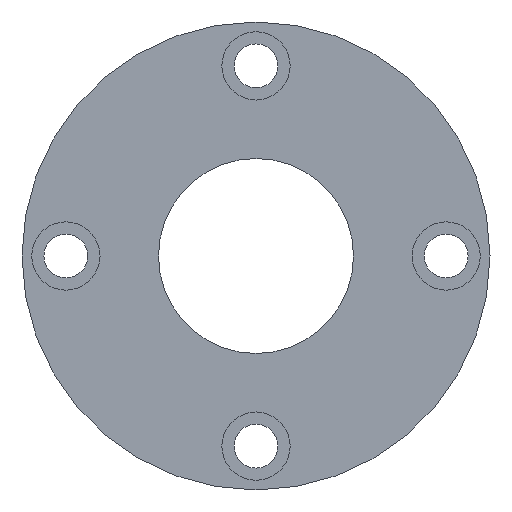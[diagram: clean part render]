
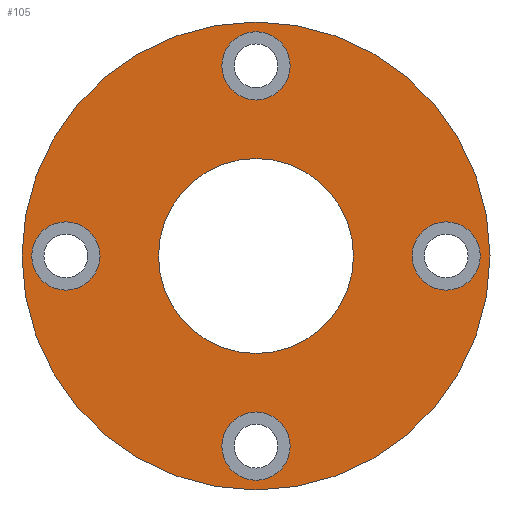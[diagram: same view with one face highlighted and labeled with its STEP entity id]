
A CAD part, front view. The second image highlights one B-rep face of the part: STEP entity #105.
In plain terms, the highlighted planar face has unit normal (0, -1, 0).
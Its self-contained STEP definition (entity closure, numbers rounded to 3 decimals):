
#2 = DIRECTION ( 'NONE',  ( 0., 0., -1. ) ) ;
#3 = FACE_BOUND ( 'NONE', #321, .T. ) ;
#7 = DIRECTION ( 'NONE',  ( 0., 0., -1. ) ) ;
#13 = CIRCLE ( 'NONE', #123, 20. ) ;
#22 = CARTESIAN_POINT ( 'NONE',  ( 1., -40., -7. ) ) ;
#23 = EDGE_CURVE ( 'NONE', #553, #687, #266, .T. ) ;
#28 = VERTEX_POINT ( 'NONE', #22 ) ;
#51 = CARTESIAN_POINT ( 'NONE',  ( 40., -40., -46. ) ) ;
#53 = VERTEX_POINT ( 'NONE', #626 ) ;
#74 = EDGE_LOOP ( 'NONE', ( #747, #332 ) ) ;
#80 = CARTESIAN_POINT ( 'NONE',  ( 40., -40., 0. ) ) ;
#81 = CIRCLE ( 'NONE', #895, 7. ) ;
#86 = DIRECTION ( 'NONE',  ( 0., 0., 1. ) ) ;
#87 = FACE_BOUND ( 'NONE', #473, .T. ) ;
#91 = AXIS2_PLACEMENT_3D ( 'NONE', #289, #712, #564 ) ;
#105 = ADVANCED_FACE ( 'NONE', ( #87, #566, #844, #3, #758, #478 ), #129, .T. ) ;
#111 = ORIENTED_EDGE ( 'NONE', *, *, #206, .T. ) ;
#114 = DIRECTION ( 'NONE',  ( 0., 0., -1. ) ) ;
#123 = AXIS2_PLACEMENT_3D ( 'NONE', #320, #185, #590 ) ;
#124 = ORIENTED_EDGE ( 'NONE', *, *, #812, .T. ) ;
#128 = CARTESIAN_POINT ( 'NONE',  ( 40., -40., 46. ) ) ;
#129 = PLANE ( 'NONE',  #135 ) ;
#135 = AXIS2_PLACEMENT_3D ( 'NONE', #562, #773, #149 ) ;
#140 = EDGE_CURVE ( 'NONE', #806, #575, #81, .T. ) ;
#143 = ORIENTED_EDGE ( 'NONE', *, *, #774, .F. ) ;
#149 = DIRECTION ( 'NONE',  ( 0., 0., 1. ) ) ;
#164 = DIRECTION ( 'NONE',  ( 0., 1., 0. ) ) ;
#170 = CARTESIAN_POINT ( 'NONE',  ( 40., -40., -20. ) ) ;
#185 = DIRECTION ( 'NONE',  ( 0., 1., 0. ) ) ;
#205 = EDGE_LOOP ( 'NONE', ( #318, #124 ) ) ;
#206 = EDGE_CURVE ( 'NONE', #870, #53, #819, .T. ) ;
#218 = CARTESIAN_POINT ( 'NONE',  ( 40., -40., 32. ) ) ;
#223 = AXIS2_PLACEMENT_3D ( 'NONE', #811, #334, #114 ) ;
#228 = VERTEX_POINT ( 'NONE', #330 ) ;
#246 = DIRECTION ( 'NONE',  ( 0., 0., -1. ) ) ;
#266 = CIRCLE ( 'NONE', #393, 20. ) ;
#274 = EDGE_CURVE ( 'NONE', #365, #479, #835, .T. ) ;
#278 = CARTESIAN_POINT ( 'NONE',  ( 40., -40., 20. ) ) ;
#280 = EDGE_CURVE ( 'NONE', #53, #870, #820, .T. ) ;
#282 = CIRCLE ( 'NONE', #526, 48. ) ;
#289 = CARTESIAN_POINT ( 'NONE',  ( 1., -40., 0. ) ) ;
#310 = ORIENTED_EDGE ( 'NONE', *, *, #392, .T. ) ;
#318 = ORIENTED_EDGE ( 'NONE', *, *, #23, .T. ) ;
#319 = AXIS2_PLACEMENT_3D ( 'NONE', #780, #859, #863 ) ;
#320 = CARTESIAN_POINT ( 'NONE',  ( 40., -40., 0. ) ) ;
#321 = EDGE_LOOP ( 'NONE', ( #434, #439 ) ) ;
#330 = CARTESIAN_POINT ( 'NONE',  ( 1., -40., 7. ) ) ;
#332 = ORIENTED_EDGE ( 'NONE', *, *, #531, .T. ) ;
#334 = DIRECTION ( 'NONE',  ( 0., 1., 0. ) ) ;
#336 = ORIENTED_EDGE ( 'NONE', *, *, #274, .F. ) ;
#342 = DIRECTION ( 'NONE',  ( 0., 0., -1. ) ) ;
#344 = CARTESIAN_POINT ( 'NONE',  ( 79., -40., 7. ) ) ;
#365 = VERTEX_POINT ( 'NONE', #757 ) ;
#379 = VERTEX_POINT ( 'NONE', #128 ) ;
#388 = VERTEX_POINT ( 'NONE', #218 ) ;
#392 = EDGE_CURVE ( 'NONE', #575, #806, #568, .T. ) ;
#393 = AXIS2_PLACEMENT_3D ( 'NONE', #80, #622, #7 ) ;
#397 = CARTESIAN_POINT ( 'NONE',  ( 40., -40., 39. ) ) ;
#398 = DIRECTION ( 'NONE',  ( 0., 0., -1. ) ) ;
#411 = CIRCLE ( 'NONE', #743, 7. ) ;
#419 = DIRECTION ( 'NONE',  ( 0., 1., 0. ) ) ;
#434 = ORIENTED_EDGE ( 'NONE', *, *, #594, .T. ) ;
#436 = EDGE_CURVE ( 'NONE', #228, #28, #411, .T. ) ;
#439 = ORIENTED_EDGE ( 'NONE', *, *, #436, .T. ) ;
#459 = DIRECTION ( 'NONE',  ( 0., 0., -1. ) ) ;
#473 = EDGE_LOOP ( 'NONE', ( #484, #111 ) ) ;
#478 = FACE_OUTER_BOUND ( 'NONE', #511, .T. ) ;
#479 = VERTEX_POINT ( 'NONE', #752 ) ;
#484 = ORIENTED_EDGE ( 'NONE', *, *, #280, .T. ) ;
#495 = AXIS2_PLACEMENT_3D ( 'NONE', #784, #164, #537 ) ;
#505 = EDGE_LOOP ( 'NONE', ( #785, #310 ) ) ;
#510 = AXIS2_PLACEMENT_3D ( 'NONE', #831, #688, #2 ) ;
#511 = EDGE_LOOP ( 'NONE', ( #143, #336 ) ) ;
#526 = AXIS2_PLACEMENT_3D ( 'NONE', #735, #674, #459 ) ;
#531 = EDGE_CURVE ( 'NONE', #379, #388, #652, .T. ) ;
#537 = DIRECTION ( 'NONE',  ( 0., 0., -1. ) ) ;
#553 = VERTEX_POINT ( 'NONE', #170 ) ;
#562 = CARTESIAN_POINT ( 'NONE',  ( -8., -40., 0. ) ) ;
#564 = DIRECTION ( 'NONE',  ( 0., 0., 1. ) ) ;
#566 = FACE_BOUND ( 'NONE', #505, .T. ) ;
#568 = CIRCLE ( 'NONE', #510, 7. ) ;
#575 = VERTEX_POINT ( 'NONE', #647 ) ;
#590 = DIRECTION ( 'NONE',  ( 0., 0., -1. ) ) ;
#594 = EDGE_CURVE ( 'NONE', #28, #228, #610, .T. ) ;
#599 = AXIS2_PLACEMENT_3D ( 'NONE', #804, #679, #398 ) ;
#610 = CIRCLE ( 'NONE', #91, 7. ) ;
#622 = DIRECTION ( 'NONE',  ( 0., 1., 0. ) ) ;
#626 = CARTESIAN_POINT ( 'NONE',  ( 79., -40., -7. ) ) ;
#630 = CARTESIAN_POINT ( 'NONE',  ( 1., -40., 0. ) ) ;
#647 = CARTESIAN_POINT ( 'NONE',  ( 40., -40., -32. ) ) ;
#652 = CIRCLE ( 'NONE', #319, 7. ) ;
#674 = DIRECTION ( 'NONE',  ( 0., 1., 0. ) ) ;
#679 = DIRECTION ( 'NONE',  ( 0., 1., 0. ) ) ;
#687 = VERTEX_POINT ( 'NONE', #278 ) ;
#688 = DIRECTION ( 'NONE',  ( 0., 1., 0. ) ) ;
#712 = DIRECTION ( 'NONE',  ( 0., 1., 0. ) ) ;
#735 = CARTESIAN_POINT ( 'NONE',  ( 40., -40., 0. ) ) ;
#743 = AXIS2_PLACEMENT_3D ( 'NONE', #630, #419, #86 ) ;
#747 = ORIENTED_EDGE ( 'NONE', *, *, #782, .T. ) ;
#752 = CARTESIAN_POINT ( 'NONE',  ( 40., -40., -48. ) ) ;
#757 = CARTESIAN_POINT ( 'NONE',  ( 40., -40., 48. ) ) ;
#758 = FACE_BOUND ( 'NONE', #205, .T. ) ;
#765 = DIRECTION ( 'NONE',  ( 0., 1., 0. ) ) ;
#773 = DIRECTION ( 'NONE',  ( 0., -1., 0. ) ) ;
#774 = EDGE_CURVE ( 'NONE', #479, #365, #282, .T. ) ;
#780 = CARTESIAN_POINT ( 'NONE',  ( 40., -40., 39. ) ) ;
#782 = EDGE_CURVE ( 'NONE', #388, #379, #807, .T. ) ;
#784 = CARTESIAN_POINT ( 'NONE',  ( 79., -40., 0. ) ) ;
#785 = ORIENTED_EDGE ( 'NONE', *, *, #140, .T. ) ;
#793 = AXIS2_PLACEMENT_3D ( 'NONE', #397, #877, #246 ) ;
#804 = CARTESIAN_POINT ( 'NONE',  ( 79., -40., 0. ) ) ;
#806 = VERTEX_POINT ( 'NONE', #51 ) ;
#807 = CIRCLE ( 'NONE', #793, 7. ) ;
#811 = CARTESIAN_POINT ( 'NONE',  ( 40., -40., 0. ) ) ;
#812 = EDGE_CURVE ( 'NONE', #687, #553, #13, .T. ) ;
#819 = CIRCLE ( 'NONE', #495, 7. ) ;
#820 = CIRCLE ( 'NONE', #599, 7. ) ;
#831 = CARTESIAN_POINT ( 'NONE',  ( 40., -40., -39. ) ) ;
#832 = CARTESIAN_POINT ( 'NONE',  ( 40., -40., -39. ) ) ;
#835 = CIRCLE ( 'NONE', #223, 48. ) ;
#844 = FACE_BOUND ( 'NONE', #74, .T. ) ;
#859 = DIRECTION ( 'NONE',  ( 0., 1., 0. ) ) ;
#863 = DIRECTION ( 'NONE',  ( 0., 0., -1. ) ) ;
#870 = VERTEX_POINT ( 'NONE', #344 ) ;
#877 = DIRECTION ( 'NONE',  ( 0., 1., 0. ) ) ;
#895 = AXIS2_PLACEMENT_3D ( 'NONE', #832, #765, #342 ) ;
